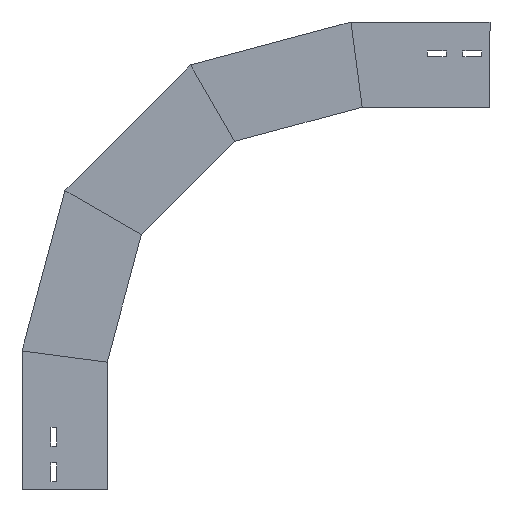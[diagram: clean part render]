
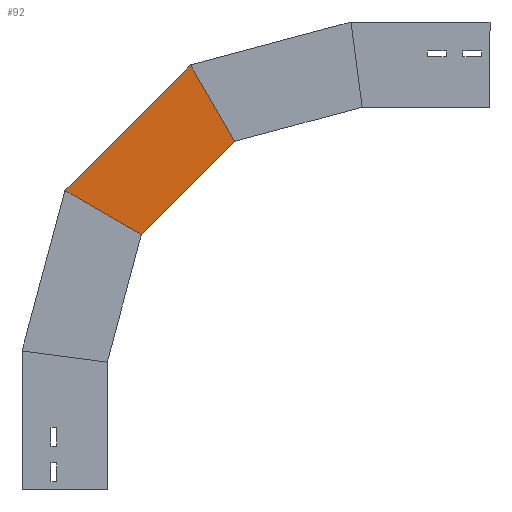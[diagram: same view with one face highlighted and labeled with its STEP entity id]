
A CAD part, left-side view. The second image highlights one B-rep face of the part: STEP entity #92.
In plain terms, the highlighted planar face has unit normal (-1, 0, 0) as drawn and (1, 0, 0) by its records, which use the part's own axes.
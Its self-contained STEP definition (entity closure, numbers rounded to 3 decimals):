
#6 = CARTESIAN_POINT ( 'NONE',  ( 0., 51.506, 349.517 ) ) ;
#22 = CARTESIAN_POINT ( 'NONE',  ( 0., -40.117, 299.719 ) ) ;
#29 = VECTOR ( 'NONE', #1496, 1000. ) ;
#32 = LINE ( 'NONE', #6, #363 ) ;
#64 = CARTESIAN_POINT ( 'NONE',  ( 0., -19.205, 278.806 ) ) ;
#92 = ADVANCED_FACE ( 'NONE', ( #1044 ), #334, .T. ) ;
#164 = CARTESIAN_POINT ( 'NONE',  ( 0., -19.205, 278.806 ) ) ;
#195 = EDGE_CURVE ( 'NONE', #980, #1287, #1806, .T. ) ;
#334 = PLANE ( 'NONE',  #1459 ) ;
#363 = VECTOR ( 'NONE', #744, 1000. ) ;
#424 = EDGE_LOOP ( 'NONE', ( #500, #1503, #630, #1721 ) ) ;
#486 = CARTESIAN_POINT ( 'NONE',  ( 0., -149.719, 409.32 ) ) ;
#500 = ORIENTED_EDGE ( 'NONE', *, *, #1832, .T. ) ;
#551 = CARTESIAN_POINT ( 'NONE',  ( 0., -97.955, 498.978 ) ) ;
#630 = ORIENTED_EDGE ( 'NONE', *, *, #780, .F. ) ;
#691 = CARTESIAN_POINT ( 'NONE',  ( 0., -78.128, 277.773 ) ) ;
#723 = EDGE_CURVE ( 'NONE', #1652, #1293, #1301, .T. ) ;
#744 = DIRECTION ( 'NONE',  ( 0., -0.707, 0.707 ) ) ;
#752 = DIRECTION ( 'NONE',  ( 0., 0., -1. ) ) ;
#771 = LINE ( 'NONE', #64, #29 ) ;
#780 = EDGE_CURVE ( 'NONE', #1287, #1293, #771, .T. ) ;
#876 = DIRECTION ( 'NONE',  ( 0., -0.5, -0.866 ) ) ;
#912 = DIRECTION ( 'NONE',  ( 1., 0., 0. ) ) ;
#980 = VERTEX_POINT ( 'NONE', #1696 ) ;
#1044 = FACE_OUTER_BOUND ( 'NONE', #424, .T. ) ;
#1167 = CARTESIAN_POINT ( 'NONE',  ( 0., -173.604, 367.949 ) ) ;
#1287 = VERTEX_POINT ( 'NONE', #22 ) ;
#1293 = VERTEX_POINT ( 'NONE', #486 ) ;
#1301 = LINE ( 'NONE', #1167, #1683 ) ;
#1459 = AXIS2_PLACEMENT_3D ( 'NONE', #164, #912, #752 ) ;
#1496 = DIRECTION ( 'NONE',  ( 0., -0.707, 0.707 ) ) ;
#1503 = ORIENTED_EDGE ( 'NONE', *, *, #723, .T. ) ;
#1652 = VERTEX_POINT ( 'NONE', #551 ) ;
#1683 = VECTOR ( 'NONE', #876, 1000. ) ;
#1696 = CARTESIAN_POINT ( 'NONE',  ( 0., 49.541, 351.482 ) ) ;
#1721 = ORIENTED_EDGE ( 'NONE', *, *, #195, .F. ) ;
#1806 = LINE ( 'NONE', #691, #1864 ) ;
#1832 = EDGE_CURVE ( 'NONE', #980, #1652, #32, .T. ) ;
#1864 = VECTOR ( 'NONE', #1875, 1000. ) ;
#1875 = DIRECTION ( 'NONE',  ( 0., -0.866, -0.5 ) ) ;
